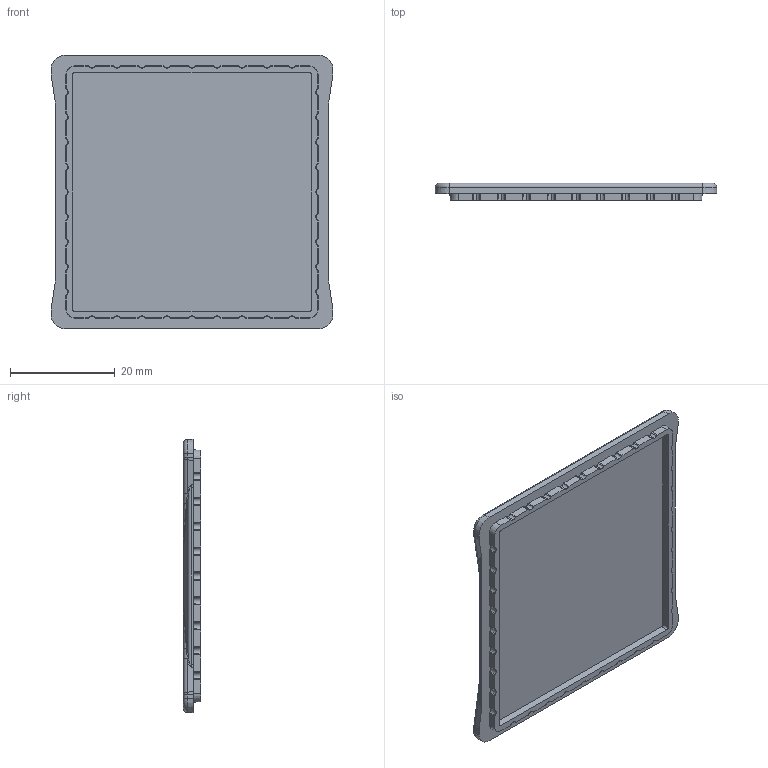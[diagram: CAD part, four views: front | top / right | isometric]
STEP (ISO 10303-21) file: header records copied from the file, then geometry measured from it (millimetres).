
FILE_DESCRIPTION (( 'STEP AP214' ), '1' );
FILE_NAME ('BX-22C.STEP', '2013-09-12T13:53:52', ( 'Designer2010' ), ( '' ), 'SwSTEP 2.0', 'SolidWorks 2013', '' );
FILE_SCHEMA (( 'AUTOMOTIVE_DESIGN' ));
Length unit declared in the file: inch
Products named in the file (1): BX-22C
Bounding box: 53.78 x 3.29 x 52.2 mm (x, y, z)
Volume: 5445.4 mm3; surface area: 6276.6 mm2
Topology: 1 solids, 1 shells, 254 faces, 710 edges, 456 vertices
Faces by surface type: cone 138, plane 62, cylinder 26, bspline 24, torus 4
Entity records: 8564 total; most frequent: CARTESIAN_POINT 1951, DIRECTION 1436, ORIENTED_EDGE 1412, EDGE_CURVE 706, AXIS2_PLACEMENT_3D 551, VERTEX_POINT 456, LINE 334, VECTOR 334
